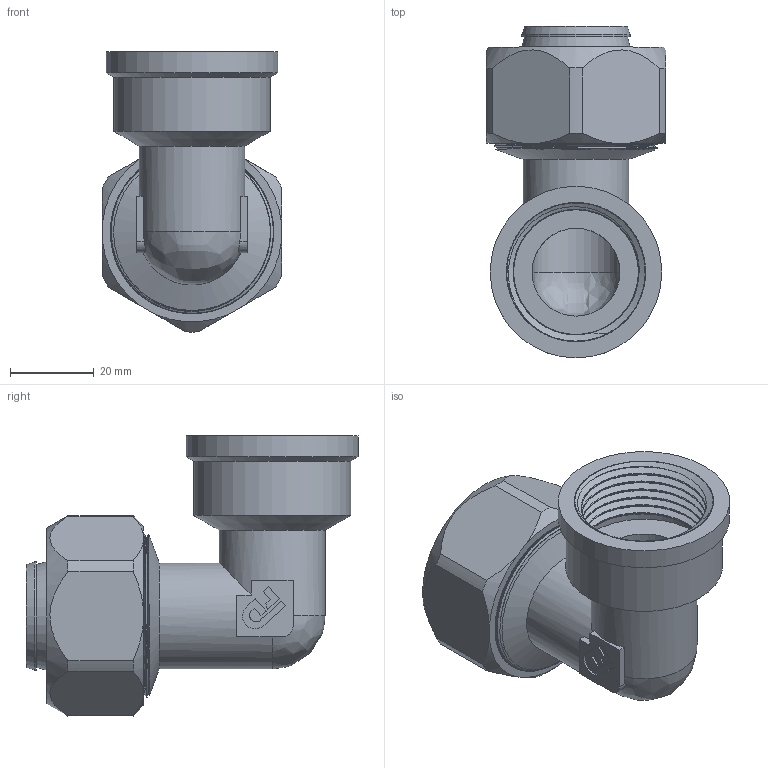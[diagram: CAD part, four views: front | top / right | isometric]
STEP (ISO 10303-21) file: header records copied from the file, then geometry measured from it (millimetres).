
FILE_DESCRIPTION(/* description */ (''),/* implementation_level */ '2;1');
FILE_NAME(/* name */ 'C:\Users\Doom\Desktop\Фадотех\Обжим\RFU18 F 30.03.2020\RFU18 F 30.03.2020.stp',/* time_stamp */ '2022-06-01T16:38:24+03:00',/* author */ ('Doom'),/* organization */ (''),/* preprocessor_version */ 'ST-DEVELOPER v18',/* originating_system */ 'Autodesk Inventor 2020',/* authorisation */ '');
FILE_SCHEMA (('AUTOMOTIVE_DESIGN { 1 0 10303 214 3 1 1 }'));
Length unit declared in the file: millimetre
Products named in the file (5): RFU18 F 30.03.2020; RFU18 F 30.03.2020_1; Olive 20 15.02.2020; FADO MC Socket-32 15.02.2020; FADO MC Nut-32 15.02.2020
Assembly tree (4 placements, depth 2):
  RFU18 F 30.03.2020
    RFU18 F 30.03.2020_1
    Olive 20 15.02.2020
    FADO MC Socket-32 15.02.2020
    FADO MC Nut-32 15.02.2020
Bounding box: 42.8 x 79.3 x 66.89 mm (x, y, z)
Volume: 42972.3 mm3; surface area: 48823.2 mm2
Topology: 7 solids, 7 shells, 605 faces, 1686 edges, 1136 vertices
Faces by surface type: bspline 282, plane 191, cylinder 103, cone 26, torus 3
Full cylindrical faces by diameter (mm): 21 x3, 23.6 x2, 25.3 x2, 25.8 x5, 26 x1, 29.816 x5, 29.995 x1, 30 x1, 30.5 x1, 32.5 x1, 33.24 x2, 36.5 x1, 37.5 x1, 37.517 x19, 38.2 x1, 39 x14, 41 x1
Entity records: 42047 total; most frequent: CARTESIAN_POINT 28200, ORIENTED_EDGE 3368, DIRECTION 1953, EDGE_CURVE 1684, VERTEX_POINT 1136, LINE 701, VECTOR 701, B_SPLINE_CURVE_WITH_KNOTS 667
